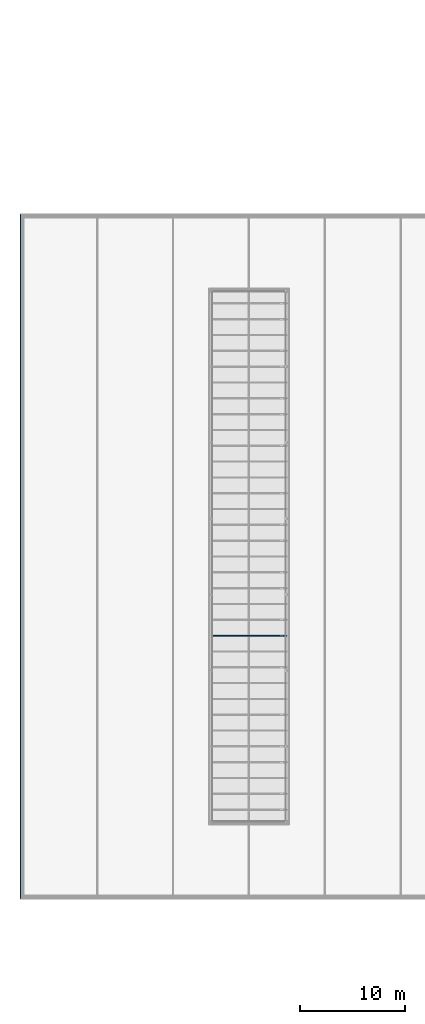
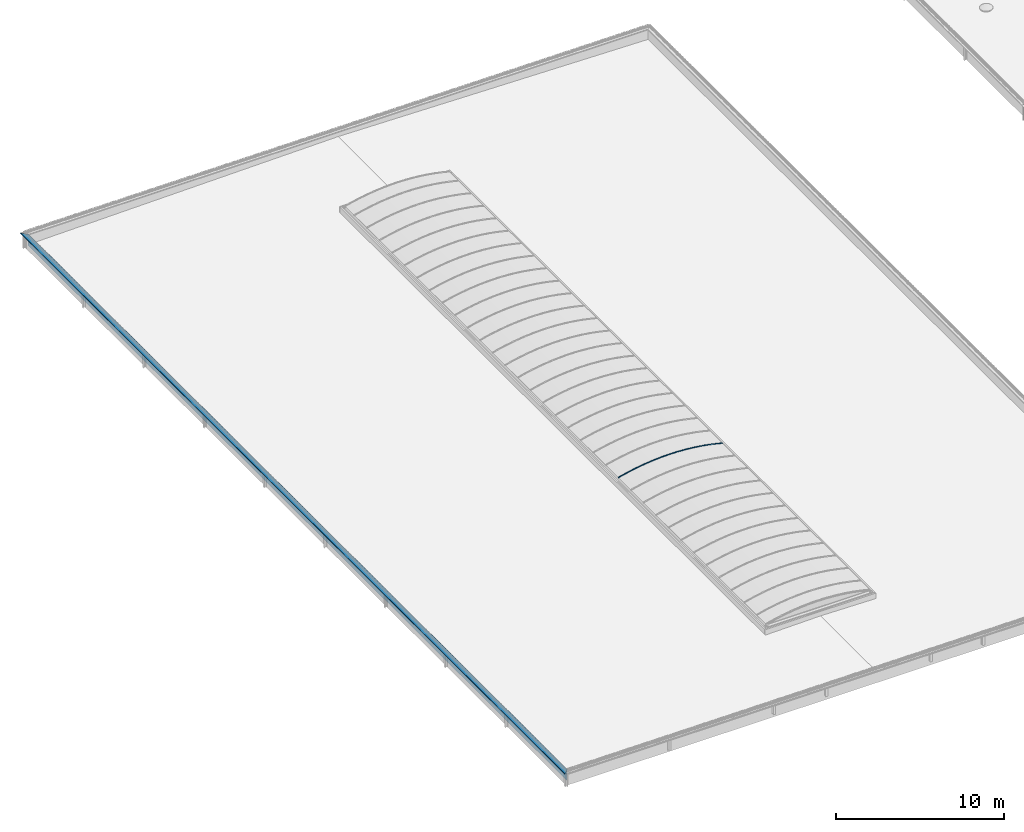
# One storey, part 38 of 81: 2 beams.
"""IFC2X3 building model written with IfcOpenShell, lengths in millimetres."""

import ifcopenshell
import ifcopenshell.guid

model = None  # the IFC model being written
_history = None  # IfcOwnerHistory: only IFC2X3 demands one
_inside = {}  # id of a spatial element -> (the spatial element, [elements in it])
_under = {}  # id of a project, library or spatial element -> (it, [spatial elements below it])
_declared = {}  # id of a project -> (the project, [libraries it declares])
_typed = {}  # id of a type object -> (the type object, [elements of that type])
_made_of = {}  # id of a material, layer set ... -> (it, [elements and type objects made of it])


def new_model(schema):
    """Start an empty IFC model of exactly this schema.

    Asked for "IFC4X3", IfcOpenShell would pick the latest addendum, in which some entities
    have other attributes; the version numbers below select the first issue.
    IFC2X3 requires an IfcOwnerHistory on every rooted entity: one is made here for all.
    """
    global model, _history
    if schema == "IFC4X3":
        model = ifcopenshell.file(schema_version=(4, 3, 0, 0))
    else:
        model = ifcopenshell.file(schema=schema)
    _inside.clear()
    _under.clear()
    _declared.clear()
    _typed.clear()
    _made_of.clear()
    _history = None
    if model.schema == "IFC2X3":
        org = make("IfcOrganization", Name="unknown")
        user = make(
            "IfcPersonAndOrganization",
            ThePerson=make("IfcPerson", FamilyName="unknown"),
            TheOrganization=org,
        )
        app = make(
            "IfcApplication",
            ApplicationDeveloper=org,
            Version="unknown",
            ApplicationFullName="unknown",
            ApplicationIdentifier="unknown",
        )
        _history = make(
            "IfcOwnerHistory",
            OwningUser=user,
            OwningApplication=app,
            ChangeAction="ADDED",
            CreationDate=0,
        )
    return model


def make(cls, **values):
    """One entity of the class cls with the attributes given. An attribute that is None is left unset."""
    return model.create_entity(
        cls, **{name: value for name, value in values.items() if value is not None}
    )


def entity(cls, *values):
    """Any entity or typed value of the class cls, its attributes in the order of the schema. None: left unset."""
    e = model.create_entity(cls)
    for i, value in enumerate(values):
        if value is not None:
            e[i] = value
    return e


def rooted(cls, **values):
    """An entity with a GlobalId (a new one), such as an element, a storey or a relation."""
    return make(cls, GlobalId=ifcopenshell.guid.new(), OwnerHistory=_history, **values)


def si_unit(unit_type, name, prefix=None):
    """IfcSIUnit, for example si_unit("LENGTHUNIT", "METRE", prefix="MILLI")."""
    return make("IfcSIUnit", UnitType=unit_type, Prefix=prefix, Name=name)


def converted_unit(unit_type, name, factor, base, dimensions=None, offset=None):
    """IfcConversionBasedUnit, such as the inch: factor (a typed value) times the base unit."""
    return make(
        "IfcConversionBasedUnit"
        if offset is None
        else "IfcConversionBasedUnitWithOffset",
        ConversionOffset=offset,
        Dimensions=None
        if dimensions is None
        else entity("IfcDimensionalExponents", *dimensions),
        UnitType=unit_type,
        Name=name,
        ConversionFactor=make(
            "IfcMeasureWithUnit", ValueComponent=factor, UnitComponent=base
        ),
    )


def derived_unit(unit_type, elements):
    """IfcDerivedUnit: a product of units, each with its exponent."""
    return make(
        "IfcDerivedUnit",
        Elements=[
            make("IfcDerivedUnitElement", Unit=unit, Exponent=power)
            for unit, power in elements
        ],
        UnitType=unit_type,
    )


def money_unit(currency):
    """IfcMonetaryUnit."""
    return make("IfcMonetaryUnit", Currency=currency)


def assignment(units):
    """IfcUnitAssignment: the units of a project."""
    return None if units is None else make("IfcUnitAssignment", Units=units)


def point(xyz):
    """IfcCartesianPoint."""
    return None if xyz is None else make("IfcCartesianPoint", Coordinates=xyz)


def direction(xyz):
    """IfcDirection."""
    return None if xyz is None else make("IfcDirection", DirectionRatios=xyz)


def frame(location, z_axis=None, x_axis=None):
    """IfcAxis2Placement3D, a coordinate frame: its origin and axes. An axis left out is left unset."""
    return make(
        "IfcAxis2Placement3D",
        Location=point(location),
        Axis=direction(z_axis),
        RefDirection=direction(x_axis),
    )


def origin_with_axes():
    """The frame at (0, 0, 0) with the z axis (0, 0, 1) and the x axis (1, 0, 0) written out."""
    return frame((0.0, 0.0, 0.0), z_axis=(0.0, 0.0, 1.0), x_axis=(1.0, 0.0, 0.0))


def place(relative_to, where):
    """IfcLocalPlacement: puts the frame where relative to a parent placement (None: the world)."""
    return make(
        "IfcLocalPlacement", PlacementRelTo=relative_to, RelativePlacement=where
    )


def context(
    kind, dimensions, precision=None, world=None, true_north=None, identifier=None
):
    """IfcGeometricRepresentationContext, for example the 3D "Model" context."""
    return make(
        "IfcGeometricRepresentationContext",
        ContextIdentifier=identifier,
        ContextType=kind,
        CoordinateSpaceDimension=dimensions,
        Precision=precision,
        WorldCoordinateSystem=world,
        TrueNorth=true_north,
    )


def subcontext(parent, identifier, kind, view, scale=None):
    """IfcGeometricRepresentationSubContext, for example "Body" below "Model"."""
    return make(
        "IfcGeometricRepresentationSubContext",
        ContextIdentifier=identifier,
        ContextType=kind,
        ParentContext=parent,
        TargetScale=scale,
        TargetView=view,
    )


def project(units=None, contexts=None):
    """IfcProject with its units and contexts."""
    return rooted(
        "IfcProject",
        Name="project",
        RepresentationContexts=contexts,
        UnitsInContext=assignment(units),
    )


def spatial(cls, under=None, at=None, **own):
    """A site, building, storey or space (cls), placed at a placement, below another one or the project."""
    s = rooted(cls, ObjectPlacement=at, **own)
    if under is not None:
        _under.setdefault(under.id(), (under, []))[1].append(s)
    return s


def faces_of(points, faces, orient=None, outer=None):
    """IfcFace entities. A face is a list of loops; a loop is a list of indices into points, from 0.

    orient and outer hold one flag for each loop. By default every Orientation is true, the
    first loop of a face is its IfcFaceOuterBound and the others are IfcFaceBound.
    """
    made = []
    for i, loops in enumerate(faces):
        bounds = []
        for j, loop in enumerate(loops):
            is_outer = j == 0 if outer is None else outer[i][j]
            bounds.append(
                make(
                    "IfcFaceOuterBound" if is_outer else "IfcFaceBound",
                    Bound=make("IfcPolyLoop", Polygon=[points[k] for k in loop]),
                    Orientation=True if orient is None else orient[i][j],
                )
            )
        made.append(make("IfcFace", Bounds=bounds))
    return made


def faceted_brep(points, faces, orient=None, outer=None, voids=None):
    """IfcFacetedBrep: a solid bounded by flat faces; with voids (closed shells), ...WithVoids."""
    shared = [point(p) for p in points]
    hull = make("IfcClosedShell", CfsFaces=faces_of(shared, faces, orient, outer))
    if voids is None:
        return make("IfcFacetedBrep", Outer=hull)
    return make(
        "IfcFacetedBrepWithVoids",
        Outer=hull,
        Voids=[
            make(cls, CfsFaces=faces_of(shared, fs, o, b)) for cls, fs, o, b in voids
        ],
    )


def shape(context_of_items, identifier, shape_type, items):
    """IfcShapeRepresentation: the items that make up one representation, for example the "Body"."""
    return make(
        "IfcShapeRepresentation",
        ContextOfItems=context_of_items,
        RepresentationIdentifier=identifier,
        RepresentationType=shape_type,
        Items=items,
    )


def material(Name=None, Category=None):
    """IfcMaterial."""
    return make("IfcMaterial", Name=Name, Category=Category)


def material_list(materials):
    """IfcMaterialList."""
    return make("IfcMaterialList", Materials=materials)


def made_of(thing, what):
    """Note that an element or type object is made of a material, layer set ...; save() writes the relation."""
    if what is not None:
        _made_of.setdefault(what.id(), (what, []))[1].append(thing)
    return thing


def type_object(cls, material=None, **own):
    """A type object (cls), such as IfcWallType, which elements share."""
    return made_of(rooted(cls, **own), material)


def element(
    cls,
    number,
    at=None,
    inside=None,
    cuts=None,
    type_object=None,
    material=None,
    context=None,
    identifier="Body",
    shape_type=None,
    held_by="IfcProductDefinitionShape",
    body=None,
    shapes=None,
    **own,
):
    """One element of the class cls, such as IfcWall. Its Tag is "e" and its number.

    at: its placement. inside: the storey or other place that contains it. cuts: it is an
    opening in that element (IfcRelVoidsElement). A single representation is given by context,
    identifier, shape_type and body (its items); several are given by shapes. held_by: the class
    of the entity that holds the representations. save() writes the other relations.
    """
    e = rooted(cls, Tag="e%d" % number, ObjectPlacement=at, **own)
    if body is not None:
        shapes = [shape(context, identifier, shape_type, body)]
    if shapes is not None:
        e.Representation = make(held_by, Representations=shapes)
    if inside is not None:
        _inside.setdefault(inside.id(), (inside, []))[1].append(e)
    if cuts is not None:
        rooted(
            "IfcRelVoidsElement", RelatingBuildingElement=cuts, RelatedOpeningElement=e
        )
    if type_object is not None:
        _typed.setdefault(type_object.id(), (type_object, []))[1].append(e)
    return made_of(e, material)


def aggregate(whole, parts):
    """IfcRelAggregates: a whole, such as a stair, and the parts it consists of."""
    return rooted("IfcRelAggregates", RelatingObject=whole, RelatedObjects=parts)


def save(model, path):
    """Write the relations noted so far, then the file.

    IfcRelAggregates (storeys below a building ...), IfcRelContainedInSpatialStructure (elements
    in a storey), IfcRelDefinesByType, IfcRelAssociatesMaterial and IfcRelDeclares: one each for
    every whole, place, type object, material and project.
    """
    for whole, parts in _under.values():
        aggregate(whole, parts)
    for where, things in _inside.values():
        rooted(
            "IfcRelContainedInSpatialStructure",
            RelatedElements=things,
            RelatingStructure=where,
        )
    for kind, things in _typed.values():
        rooted("IfcRelDefinesByType", RelatedObjects=things, RelatingType=kind)
    for what, things in _made_of.values():
        rooted("IfcRelAssociatesMaterial", RelatedObjects=things, RelatingMaterial=what)
    for by, libraries in _declared.values():
        rooted("IfcRelDeclares", RelatingContext=by, RelatedDefinitions=libraries)
    model.write(path)


model = new_model("IFC2X3")

# Units and contexts
model_context = context("Model", 3, precision=0.01, world=origin_with_axes(), true_north=direction((0.0, 1.0)))
body_context = subcontext(model_context, "Body", "Model", "MODEL_VIEW")
ifc_project = project(units=[si_unit("LENGTHUNIT", "METRE", prefix="MILLI"), si_unit("AREAUNIT", "SQUARE_METRE"), si_unit("VOLUMEUNIT", "CUBIC_METRE"), converted_unit("PLANEANGLEUNIT", "DEGREE", entity("IfcPlaneAngleMeasure", 0.0174532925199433), si_unit("PLANEANGLEUNIT", "RADIAN"), dimensions=[0, 0, 0, 0, 0, 0, 0]), money_unit("EUR"), converted_unit("TIMEUNIT", "Year", entity("IfcTimeMeasure", 31557600.0), si_unit("TIMEUNIT", "SECOND"), dimensions=[0, 0, 1, 0, 0, 0, 0]), si_unit("MASSUNIT", "GRAM", prefix="KILO"), si_unit("THERMODYNAMICTEMPERATUREUNIT", "DEGREE_CELSIUS"), si_unit("LUMINOUSINTENSITYUNIT", "LUMEN"), si_unit("ENERGYUNIT", "JOULE", prefix="MEGA"), derived_unit("THERMALCONDUCTANCEUNIT", [(si_unit("POWERUNIT", "WATT"), 1), (si_unit("LENGTHUNIT", "METRE"), -1), (si_unit("THERMODYNAMICTEMPERATUREUNIT", "KELVIN"), -1)]), derived_unit("SPECIFICHEATCAPACITYUNIT", [(si_unit("ENERGYUNIT", "JOULE"), 1), (si_unit("MASSUNIT", "GRAM", prefix="KILO"), -1), (si_unit("THERMODYNAMICTEMPERATUREUNIT", "KELVIN"), -1)]), derived_unit("MASSDENSITYUNIT", [(si_unit("MASSUNIT", "GRAM", prefix="KILO"), 1), (si_unit("VOLUMEUNIT", "CUBIC_METRE"), -1)])], contexts=[model_context])

# Site, building, storey
site_placement = place(None, origin_with_axes())
site = spatial("IfcSite", under=ifc_project, at=site_placement, Name="Site", CompositionType="ELEMENT")
building_placement = place(site_placement, origin_with_axes())
building = spatial("IfcBuilding", under=site, at=building_placement, Name="Naam gebouw", CompositionType="ELEMENT")
storey_placement = place(building_placement, frame((0.0, 0.0, 15320.0), z_axis=(0.0, 0.0, 1.0), x_axis=(1.0, 0.0, 0.0)))
storey = spatial("IfcBuildingStorey", under=building, at=storey_placement, Name="01 dak", CompositionType="ELEMENT", Elevation=15320.0)

# Beams
ifc_material_1 = material(Name="Membraan - dampdicht")
ifc_material_2 = material(Name="Metaal - Titanium zink")
ifc_material_list_1 = material_list([ifc_material_1, ifc_material_2])
beam_type_1 = type_object("IfcBeamType", Name="Muurafdekker_210 394 x 841", PredefinedType="BEAM")
beam_1_placement = place(storey_placement, frame((25299.99999999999, 30000.0, 645.0108944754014), z_axis=(0.0, 0.0, 1.0), x_axis=(1.0, 0.0, 0.0)))
element("IfcBeam", 1, at=beam_1_placement, inside=storey, type_object=beam_type_1, material=ifc_material_list_1, Name="dakkap", ObjectType="BEAM", context=body_context, shape_type="Brep", body=[
    faceted_brep([(252.0000000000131, 64548.0, 7.21089447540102), (252.0000000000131, 64548.0, -806.4411900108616), (252.0000000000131, 252.0000000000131, -806.4411900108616), (252.0000000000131, 252.0000000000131, 7.21089447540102), (254.000000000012, 64546.00000000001, 7.21089447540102), (254.000000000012, 64546.00000000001, -806.4411900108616), (254.000000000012, 254.000000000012, -806.4411900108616), (254.000000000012, 254.000000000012, 7.21089447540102)], [[[0, 1, 2, 3]], [[0, 4, 5, 1]], [[1, 5, 6, 2]], [[3, 2, 6, 7]], [[4, 0, 3, 7]], [[5, 4, 7, 6]]]),
    faceted_brep([(-105.0000000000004, -105.0000000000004, 7.30000000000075), (-105.0000000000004, 64905.00000000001, 7.30000000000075), (-104.2673779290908, 64904.26737792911, 5.531844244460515), (-104.2673779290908, -104.2673779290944, 5.531844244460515), (-105.0000000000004, -105.0000000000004, 32.31089447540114), (-105.0000000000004, 64905.00000000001, 32.31089447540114), (-104.3675626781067, 64904.36756267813, 33.97288413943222), (-102.7902322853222, 64902.79023228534, 34.79399036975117), (-101.066058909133, 64901.06605890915, 34.35877458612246), (-79.99022734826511, 64879.99022734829, 19.60131845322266), (-79.70672514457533, 64879.7067251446, 19.5109160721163), (270.2494811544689, 64529.75051884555, 17.21089447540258), (271.683422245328, 64528.31657775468, 16.75877458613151), (272.5987127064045, 64527.40128729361, 15.56594483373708), (288.3554032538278, 64511.64459674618, -27.72520665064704), (288.2719411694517, 64511.72805883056, -29.63680266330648), (286.8612220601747, 64513.13877793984, -30.92948856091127), (275.1150643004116, 64524.8849356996, -35.20474035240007), (274.4310240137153, 64525.5689759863, -33.32535511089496), (286.1771817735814, 64513.82281822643, -29.05010331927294), (286.4593255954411, 64513.54067440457, -28.79156613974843), (286.4760180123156, 64513.5239819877, -28.40924693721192), (270.7193274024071, 64529.2806725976, 14.88190471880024), (270.5376117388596, 64529.46238826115, 15.11952092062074), (270.2527665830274, 64529.74723341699, 15.21087341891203), (-79.70343913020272, 64879.70343913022, 17.51089447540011), (-81.13738022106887, 64881.13738022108, 17.96301436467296), (-102.2132117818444, 64902.21321178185, 32.72047049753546), (-102.558046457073, 64902.55804645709, 32.80751365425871), (-102.8735125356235, 64902.87351253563, 32.64329240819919), (-102.999999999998, 64903.00000000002, 32.31089447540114), (-102.999999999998, 64903.00000000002, 7.30000000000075), (-102.8534839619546, 64902.85348396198, 6.946377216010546), (-102.4998036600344, 64902.49980366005, 6.800000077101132), (-50.00000000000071, 64850.00000000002, 6.823967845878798), (-50.00000000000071, 64850.00000000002, -13.1803899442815), (-51.9999999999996, 64852.00000000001, -13.1803899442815), (-51.9999999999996, 64852.00000000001, 4.822224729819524), (-102.498899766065, 64902.49889976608, 4.800000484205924), (-102.498899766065, -102.498899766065, 4.800000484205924), (-51.9999999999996, -51.99999999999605, 4.822224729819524), (-51.9999999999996, -51.99999999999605, -13.1803899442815), (-50.00000000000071, -50.00000000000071, -13.1803899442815), (-50.00000000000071, -50.00000000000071, 6.823967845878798), (-102.4998036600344, -102.4998036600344, 6.800000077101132), (-102.8534839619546, -102.8534839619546, 6.946377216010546), (-102.999999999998, -102.999999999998, 7.30000000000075), (-102.999999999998, -102.999999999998, 32.31089447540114), (-102.8735125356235, -102.873512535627, 32.64329240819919), (-102.558046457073, -102.558046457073, 32.80751365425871), (-102.2132117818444, -102.2132117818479, 32.72047049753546), (-81.13738022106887, -81.13738022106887, 17.96301436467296), (-79.70343913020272, -79.70343913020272, 17.51089447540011), (270.2527665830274, 270.2527665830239, 15.21087341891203), (270.5376117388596, 270.5376117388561, 15.11952092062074), (270.7193274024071, 270.7193274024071, 14.88190471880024), (286.4760180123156, 286.4760180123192, -28.40924693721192), (286.4593255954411, 286.4593255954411, -28.79156613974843), (286.1771817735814, 286.1771817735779, -29.05010331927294), (274.4310240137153, 274.4310240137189, -33.32535511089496), (275.1150643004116, 275.1150643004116, -35.20474035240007), (286.8612220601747, 286.8612220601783, -30.92948856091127), (288.2719411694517, 288.2719411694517, -29.63680266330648), (288.3554032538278, 288.3554032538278, -27.72520665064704), (272.5987127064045, 272.598712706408, 15.56594483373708), (271.683422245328, 271.683422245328, 16.75877458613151), (270.2494811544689, 270.2494811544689, 17.21089447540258), (-79.70672514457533, -79.70672514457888, 19.5109160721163), (-79.99022734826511, -79.99022734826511, 19.60131845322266), (-101.066058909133, -101.0660589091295, 34.35877458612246), (-102.7902322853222, -102.7902322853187, 34.79399036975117), (-104.3675626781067, -104.3675626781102, 33.97288413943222)], [[[0, 1, 2, 3]], [[4, 5, 1, 0]], [[2, 1, 5, 6, 7, 8, 9, 10, 11, 12, 13, 14, 15, 16, 17, 18, 19, 20, 21, 22, 23, 24, 25, 26, 27, 28, 29, 30, 31, 32, 33, 34, 35, 36, 37, 38]], [[3, 2, 38, 39]], [[4, 0, 3, 39, 40, 41, 42, 43, 44, 45, 46, 47, 48, 49, 50, 51, 52, 53, 54, 55, 56, 57, 58, 59, 60, 61, 62, 63, 64, 65, 66, 67, 68, 69, 70, 71]], [[71, 6, 5, 4]], [[70, 7, 6, 71]], [[69, 8, 7, 70]], [[68, 9, 8, 69]], [[67, 10, 9, 68]], [[66, 11, 10, 67]], [[65, 12, 11, 66]], [[64, 13, 12, 65]], [[63, 14, 13, 64]], [[62, 15, 14, 63]], [[61, 16, 15, 62]], [[60, 17, 16, 61]], [[59, 18, 17, 60]], [[58, 19, 18, 59]], [[57, 20, 19, 58]], [[56, 21, 20, 57]], [[55, 22, 21, 56]], [[54, 23, 22, 55]], [[53, 24, 23, 54]], [[52, 25, 24, 53]], [[51, 26, 25, 52]], [[50, 27, 26, 51]], [[49, 28, 27, 50]], [[48, 29, 28, 49]], [[47, 30, 29, 48]], [[46, 31, 30, 47]], [[45, 32, 31, 46]], [[44, 33, 32, 45]], [[43, 34, 33, 44]], [[42, 35, 34, 43]], [[41, 36, 35, 42]], [[40, 37, 36, 41]], [[39, 38, 37, 40]]]),
])
ifc_material_3 = material(Name="Metaal - Aluminium AFW")
ifc_material_list_2 = material_list([ifc_material_3, ifc_material_3])
beam_type_2 = type_object("IfcBeamType", Name="lichtstraat polycarbonaat (constructie) 7420 x 670", PredefinedType="BEAM")
beam_2_placement = place(storey_placement, frame((46900.00000000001, 54862.50000000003, 559.9999999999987), z_axis=(0.0, 0.0, 1.0), x_axis=(1.0, 0.0, 0.0)))
element("IfcBeam", 2, at=beam_2_placement, inside=storey, type_object=beam_type_2, material=ifc_material_list_2, Name="Plafondafwerking 3", ObjectType="BEAM", context=body_context, shape_type="Brep", body=[
    faceted_brep([(-3532.999999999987, 0.0, 192.1385480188), (-3582.999999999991, 0.0, 179.000000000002), (-3582.999999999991, 75.00000000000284, 179.000000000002), (-3532.999999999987, 75.00000000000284, 192.1385480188), (-3264.746952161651, 0.0, 264.2761146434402), (-3584.237010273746, 0.0, 183.6724462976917), (-3527.999999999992, 0.0, 193.4415530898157), (-3213.322878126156, 0.0, 271.5053933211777), (-2896.922437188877, 0.0, 342.2614189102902), (-2578.968364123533, 0.0, 405.6716830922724), (-2259.631179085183, 0.0, 461.7021786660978), (-1939.082143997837, 0.0, 510.3228562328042), (-1617.493170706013, 0.0, 551.5076403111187), (-1295.036728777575, 0.0, 585.2344433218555), (-971.8857530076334, 0.0, 611.485177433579), (-648.2135506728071, 0.0, 630.2457642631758), (-324.1937085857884, 0.0, 641.5061424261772), (0.0, 0.0, 645.2602729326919), (324.1937085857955, 0.0, 641.5061424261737), (648.2135506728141, 0.0, 630.2457642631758), (971.8857530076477, 0.0, 611.4851774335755), (1295.036728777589, 0.0, 585.2344433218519), (1617.49317070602, 0.0, 551.5076403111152), (1939.082143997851, 0.0, 510.3228562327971), (2259.63117908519, 0.0, 461.7021786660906), (2578.968364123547, 0.0, 405.6716830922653), (2896.922437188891, 0.0, 342.2614189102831), (3213.322878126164, 0.0, 271.5053933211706), (3528.000000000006, 0.0, 193.4415530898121), (3528.000000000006, 0.0, 194.0000000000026), (3533.000000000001, 0.0, 194.0000000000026), (3533.000000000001, 0.0, 192.1385480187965), (3582.999999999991, 0.0, 179.000000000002), (3584.237010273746, 0.0, 183.6724462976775), (3264.746952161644, 0.0, 264.2761146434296), (2943.448443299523, 0.0, 337.3385317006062), (2620.519461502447, 0.0, 402.8192257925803), (2296.138887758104, 0.0, 460.6819250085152), (1970.486407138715, 0.0, 510.8945772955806), (1643.742409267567, 0.0, 553.4293682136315), (1316.087888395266, 0.0, 588.2627363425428), (987.7043431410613, 0.0, 615.3753863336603), (658.7736759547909, 0.0, 634.7522995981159), (329.4780923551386, 0.0, 646.3827426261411), (0.0, 0.0, 650.2602729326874), (-329.4780923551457, 0.0, 646.3827426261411), (-658.7736759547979, 0.0, 634.7522995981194), (-987.7043431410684, 0.0, 615.375386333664), (-1316.087888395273, 0.0, 588.2627363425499), (-1643.742409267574, 0.0, 553.4293682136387), (-1970.486407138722, 0.0, 510.8945772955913), (-2296.138887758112, 0.0, 460.6819250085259), (-2620.519461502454, 0.0, 402.8192257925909), (-2943.44844329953, 0.0, 337.3385317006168), (-3584.237010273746, 75.00000000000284, 183.6724462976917), (-3527.999999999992, 75.00000000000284, 193.4415530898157), (-3264.746952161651, 75.00000000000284, 264.2761146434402), (-2943.44844329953, 75.00000000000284, 337.3385317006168), (-2620.519461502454, 75.00000000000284, 402.8192257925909), (-2296.138887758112, 75.00000000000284, 460.6819250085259), (-1970.486407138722, 75.00000000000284, 510.8945772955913), (-1643.742409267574, 75.00000000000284, 553.4293682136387), (-1316.087888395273, 75.00000000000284, 588.2627363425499), (-987.7043431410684, 75.00000000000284, 615.375386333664), (-658.7736759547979, 75.00000000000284, 634.7522995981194), (-329.4780923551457, 75.00000000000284, 646.3827426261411), (0.0, 75.00000000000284, 650.2602729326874), (329.4780923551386, 75.00000000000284, 646.3827426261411), (658.7736759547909, 75.00000000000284, 634.7522995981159), (987.7043431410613, 75.00000000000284, 615.3753863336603), (1316.087888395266, 75.00000000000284, 588.2627363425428), (1643.742409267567, 75.00000000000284, 553.4293682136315), (1970.486407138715, 75.00000000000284, 510.8945772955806), (2296.138887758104, 75.00000000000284, 460.6819250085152), (2620.519461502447, 75.00000000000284, 402.8192257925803), (2943.448443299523, 75.00000000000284, 337.3385317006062), (3264.746952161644, 75.00000000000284, 264.2761146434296), (3584.237010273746, 75.00000000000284, 183.6724462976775), (3582.999999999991, 75.00000000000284, 179.000000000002), (3533.000000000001, 75.00000000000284, 192.1385480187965), (3533.000000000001, 75.00000000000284, 194.0000000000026), (3528.000000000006, 75.00000000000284, 194.0000000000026), (3528.000000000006, 75.00000000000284, 193.4415530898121), (3213.322878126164, 75.00000000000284, 271.5053933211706), (2896.922437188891, 75.00000000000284, 342.2614189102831), (2578.968364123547, 75.00000000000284, 405.6716830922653), (2259.63117908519, 75.00000000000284, 461.7021786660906), (1939.082143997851, 75.00000000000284, 510.3228562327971), (1617.49317070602, 75.00000000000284, 551.5076403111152), (1295.036728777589, 75.00000000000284, 585.2344433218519), (971.8857530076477, 75.00000000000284, 611.4851774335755), (648.2135506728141, 75.00000000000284, 630.2457642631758), (324.1937085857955, 75.00000000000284, 641.5061424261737), (0.0, 75.00000000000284, 645.2602729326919), (-324.1937085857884, 75.00000000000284, 641.5061424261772), (-648.2135506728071, 75.00000000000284, 630.2457642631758), (-971.8857530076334, 75.00000000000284, 611.485177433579), (-1295.036728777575, 75.00000000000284, 585.2344433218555), (-1617.493170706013, 75.00000000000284, 551.5076403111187), (-1939.082143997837, 75.00000000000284, 510.3228562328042), (-2259.631179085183, 75.00000000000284, 461.7021786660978), (-2578.968364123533, 75.00000000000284, 405.6716830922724), (-2896.922437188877, 75.00000000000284, 342.2614189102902), (-3213.322878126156, 75.00000000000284, 271.5053933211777)], [[[0, 1, 2, 3]], [[4, 5, 1, 0, 6, 7, 8, 9, 10, 11, 12, 13, 14, 15, 16, 17, 18, 19, 20, 21, 22, 23, 24, 25, 26, 27, 28, 29, 30, 31, 32, 33, 34, 35, 36, 37, 38, 39, 40, 41, 42, 43, 44, 45, 46, 47, 48, 49, 50, 51, 52, 53]], [[1, 5, 54, 2]], [[55, 3, 2, 54, 56, 57, 58, 59, 60, 61, 62, 63, 64, 65, 66, 67, 68, 69, 70, 71, 72, 73, 74, 75, 76, 77, 78, 79, 80, 81, 82, 83, 84, 85, 86, 87, 88, 89, 90, 91, 92, 93, 94, 95, 96, 97, 98, 99, 100, 101, 102, 103]], [[6, 0, 3, 55]], [[5, 4, 56, 54]], [[7, 6, 55, 103]], [[8, 7, 103, 102]], [[9, 8, 102, 101]], [[10, 9, 101, 100]], [[11, 10, 100, 99]], [[12, 11, 99, 98]], [[13, 12, 98, 97]], [[14, 13, 97, 96]], [[15, 14, 96, 95]], [[16, 15, 95, 94]], [[17, 16, 94, 93]], [[18, 17, 93, 92]], [[19, 18, 92, 91]], [[20, 19, 91, 90]], [[21, 20, 90, 89]], [[22, 21, 89, 88]], [[23, 22, 88, 87]], [[24, 23, 87, 86]], [[25, 24, 86, 85]], [[26, 25, 85, 84]], [[27, 26, 84, 83]], [[28, 27, 83, 82]], [[29, 28, 82, 81]], [[30, 29, 81, 80]], [[31, 30, 80, 79]], [[32, 31, 79, 78]], [[33, 32, 78, 77]], [[34, 33, 77, 76]], [[35, 34, 76, 75]], [[36, 35, 75, 74]], [[37, 36, 74, 73]], [[38, 37, 73, 72]], [[39, 38, 72, 71]], [[40, 39, 71, 70]], [[41, 40, 70, 69]], [[42, 41, 69, 68]], [[43, 42, 68, 67]], [[44, 43, 67, 66]], [[45, 44, 66, 65]], [[46, 45, 65, 64]], [[47, 46, 64, 63]], [[48, 47, 63, 62]], [[49, 48, 62, 61]], [[50, 49, 61, 60]], [[51, 50, 60, 59]], [[52, 51, 59, 58]], [[53, 52, 58, 57]], [[4, 53, 57, 56]]]),
    faceted_brep([(3269.271727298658, 75.00000000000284, 283.190243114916), (2947.542627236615, 75.00000000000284, 356.4574241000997), (2947.542627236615, 0.0, 356.4574241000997), (3269.271727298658, 0.0, 283.190243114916), (3589.18475202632, 75.00000000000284, 202.3611008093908), (3587.947861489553, 75.00000000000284, 197.6891067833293), (3528.000000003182, 75.00000000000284, 213.4415530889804), (3213.322878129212, 75.00000000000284, 291.505393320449), (2896.922437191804, 75.00000000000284, 362.2614189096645), (2578.968364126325, 75.00000000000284, 425.6716830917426), (2259.631179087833, 75.00000000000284, 481.7021786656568), (1939.082144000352, 75.00000000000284, 530.3228562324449), (1617.493170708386, 75.00000000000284, 571.5076403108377), (1295.036728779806, 75.00000000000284, 605.2344433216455), (971.8857530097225, 75.00000000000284, 631.4851774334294), (648.2135506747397, 75.00000000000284, 650.2457642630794), (324.1937085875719, 75.00000000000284, 661.5061424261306), (1.63424829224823e-09, 75.00000000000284, 665.2602729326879), (-324.1937085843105, 75.00000000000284, 661.5061424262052), (-648.2135506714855, 75.00000000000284, 650.2457642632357), (-971.8857530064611, 75.00000000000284, 631.4851774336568), (-1295.036728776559, 75.00000000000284, 605.2344433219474), (-1617.493170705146, 75.00000000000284, 571.5076403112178), (-1939.082143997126, 75.00000000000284, 530.3228562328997), (-2259.631179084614, 75.00000000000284, 481.7021786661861), (-2578.968364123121, 75.00000000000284, 425.6716830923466), (-2896.922437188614, 75.00000000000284, 362.2614189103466), (-3213.322878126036, 75.00000000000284, 291.5053933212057), (-3528.00000000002, 75.00000000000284, 213.4415530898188), (-3533.000000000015, 75.00000000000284, 212.1385480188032), (-3587.947861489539, 75.00000000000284, 197.6891067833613), (-3589.184752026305, 75.00000000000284, 202.3611008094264), (-3269.271727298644, 75.00000000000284, 283.1902431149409), (-2947.542627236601, 75.00000000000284, 356.4574241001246), (-2624.176171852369, 75.00000000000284, 422.1219439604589), (-2299.351990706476, 75.00000000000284, 480.1473261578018), (-1973.250523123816, 75.00000000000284, 530.5013376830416), (-1646.052917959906, 75.00000000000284, 573.156006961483), (-1317.940932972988, 75.00000000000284, 608.0876393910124), (-989.0968338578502, 75.00000000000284, 635.2768305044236), (-659.7032929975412, 75.00000000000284, 654.7084767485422), (-329.9432879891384, 75.00000000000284, 666.3717838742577), (0.0, 75.00000000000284, 670.2602729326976), (329.9432879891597, 75.00000000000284, 666.3717838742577), (659.7032929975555, 75.00000000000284, 654.7084767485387), (989.0968338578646, 75.00000000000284, 635.2768305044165), (1317.940932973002, 75.00000000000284, 608.0876393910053), (1646.052917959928, 75.00000000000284, 573.1560069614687), (1973.250523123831, 75.00000000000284, 530.5013376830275), (2299.351990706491, 75.00000000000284, 480.147326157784), (2624.176171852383, 75.00000000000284, 422.1219439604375), (2624.176171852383, 0.0, 422.1219439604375), (2299.351990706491, 0.0, 480.147326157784), (1973.250523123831, 0.0, 530.5013376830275), (1646.052917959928, 0.0, 573.1560069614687), (1317.940932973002, 0.0, 608.0876393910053), (989.0968338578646, 0.0, 635.2768305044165), (659.7032929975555, 0.0, 654.7084767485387), (329.9432879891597, 0.0, 666.3717838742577), (0.0, 0.0, 670.2602729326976), (-329.9432879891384, 0.0, 666.3717838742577), (-659.7032929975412, 0.0, 654.7084767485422), (-989.0968338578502, 0.0, 635.2768305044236), (-1317.940932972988, 0.0, 608.0876393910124), (-1646.052917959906, 0.0, 573.156006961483), (-1973.250523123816, 0.0, 530.5013376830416), (-2299.351990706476, 0.0, 480.1473261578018), (-2624.176171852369, 0.0, 422.1219439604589), (-2947.542627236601, 0.0, 356.4574241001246), (-3269.271727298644, 0.0, 283.1902431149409), (-3589.184752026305, 0.0, 202.3611008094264), (-3587.947861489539, 0.0, 197.6891067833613), (-3533.000000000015, 0.0, 212.1385480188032), (-3528.00000000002, 0.0, 213.4415530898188), (-3213.322878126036, 0.0, 291.5053933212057), (-2896.922437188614, 0.0, 362.2614189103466), (-2578.968364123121, 0.0, 425.6716830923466), (-2259.631179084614, 0.0, 481.7021786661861), (-1939.082143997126, 0.0, 530.3228562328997), (-1617.493170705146, 0.0, 571.5076403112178), (-1295.036728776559, 0.0, 605.2344433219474), (-971.8857530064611, 0.0, 631.4851774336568), (-648.2135506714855, 0.0, 650.2457642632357), (-324.1937085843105, 0.0, 661.5061424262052), (1.63424829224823e-09, 0.0, 665.2602729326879), (324.1937085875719, 0.0, 661.5061424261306), (648.2135506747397, 0.0, 650.2457642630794), (971.8857530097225, 0.0, 631.4851774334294), (1295.036728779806, 0.0, 605.2344433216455), (1617.493170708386, 0.0, 571.5076403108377), (1939.082144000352, 0.0, 530.3228562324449), (2259.631179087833, 0.0, 481.7021786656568), (2578.968364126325, 0.0, 425.6716830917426), (2896.922437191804, 0.0, 362.2614189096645), (3213.322878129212, 0.0, 291.505393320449), (3528.000000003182, 0.0, 213.4415530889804), (3587.947861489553, 0.0, 197.6891067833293), (3589.18475202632, 0.0, 202.3611008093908)], [[[0, 1, 2, 3]], [[0, 4, 5, 6, 7, 8, 9, 10, 11, 12, 13, 14, 15, 16, 17, 18, 19, 20, 21, 22, 23, 24, 25, 26, 27, 28, 29, 30, 31, 32, 33, 34, 35, 36, 37, 38, 39, 40, 41, 42, 43, 44, 45, 46, 47, 48, 49, 50, 1]], [[1, 50, 51, 2]], [[3, 2, 51, 52, 53, 54, 55, 56, 57, 58, 59, 60, 61, 62, 63, 64, 65, 66, 67, 68, 69, 70, 71, 72, 73, 74, 75, 76, 77, 78, 79, 80, 81, 82, 83, 84, 85, 86, 87, 88, 89, 90, 91, 92, 93, 94, 95, 96, 97]], [[4, 0, 3, 97]], [[5, 4, 97, 96]], [[6, 5, 96, 95]], [[7, 6, 95, 94]], [[8, 7, 94, 93]], [[9, 8, 93, 92]], [[10, 9, 92, 91]], [[11, 10, 91, 90]], [[12, 11, 90, 89]], [[13, 12, 89, 88]], [[14, 13, 88, 87]], [[15, 14, 87, 86]], [[16, 15, 86, 85]], [[17, 16, 85, 84]], [[18, 17, 84, 83]], [[19, 18, 83, 82]], [[20, 19, 82, 81]], [[21, 20, 81, 80]], [[22, 21, 80, 79]], [[23, 22, 79, 78]], [[24, 23, 78, 77]], [[25, 24, 77, 76]], [[26, 25, 76, 75]], [[27, 26, 75, 74]], [[28, 27, 74, 73]], [[29, 28, 73, 72]], [[30, 29, 72, 71]], [[31, 30, 71, 70]], [[32, 31, 70, 69]], [[33, 32, 69, 68]], [[34, 33, 68, 67]], [[35, 34, 67, 66]], [[36, 35, 66, 65]], [[37, 36, 65, 64]], [[38, 37, 64, 63]], [[39, 38, 63, 62]], [[40, 39, 62, 61]], [[41, 40, 61, 60]], [[42, 41, 60, 59]], [[43, 42, 59, 58]], [[44, 43, 58, 57]], [[45, 44, 57, 56]], [[46, 45, 56, 55]], [[47, 46, 55, 54]], [[48, 47, 54, 53]], [[49, 48, 53, 52]], [[50, 49, 52, 51]]]),
])

save(model, "model.ifc")
